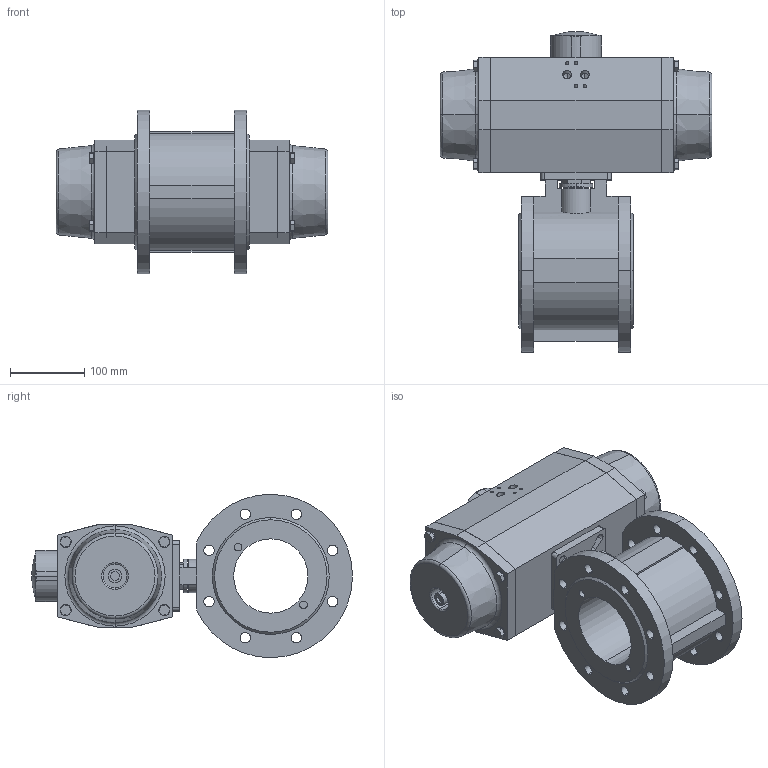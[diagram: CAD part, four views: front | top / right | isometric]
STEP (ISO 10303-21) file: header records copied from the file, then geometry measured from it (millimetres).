
FILE_DESCRIPTION (( 'STEP AP214' ), '1' );
FILE_NAME ('S15D DN100 AP5.STEP', '2012-04-24T08:14:19', ( 'Jan' ), ( '' ), 'SwSTEP 2.0', 'SolidWorks 2011', '' );
FILE_SCHEMA (( 'AUTOMOTIVE_DESIGN' ));
Length unit declared in the file: millimetre
Products named in the file (3): S15D KK DN100 PN16; AP5_Default<As Machined>; S15D DN100 AP5
Assembly tree (2 placements, depth 2):
  S15D DN100 AP5
    AP5_Default<As Machined>
    S15D KK DN100 PN16
Bounding box: 366 x 432.2 x 220 mm (x, y, z)
Volume: 9222244.8 mm3; surface area: 535950 mm2
Topology: 11 solids, 11 shells, 470 faces, 1172 edges, 730 vertices
Faces by surface type: plane 260, cylinder 150, cone 46, torus 12, sphere 2
Entity records: 15371 total; most frequent: DIRECTION 2478, CARTESIAN_POINT 2418, ORIENTED_EDGE 2268, EDGE_CURVE 1134, AXIS2_PLACEMENT_3D 872, LINE 734, VECTOR 734, VERTEX_POINT 730
